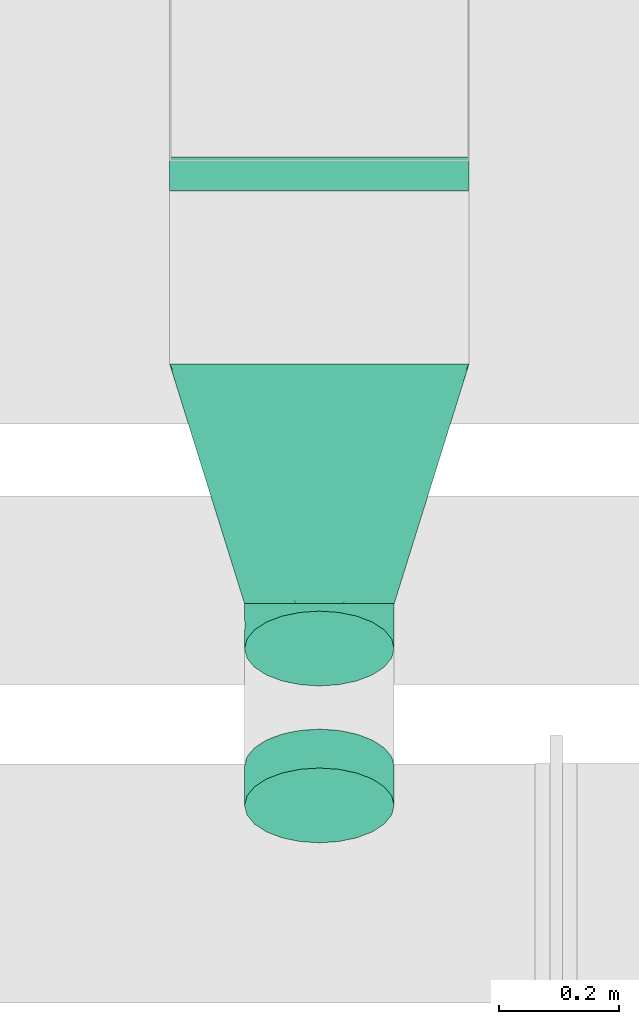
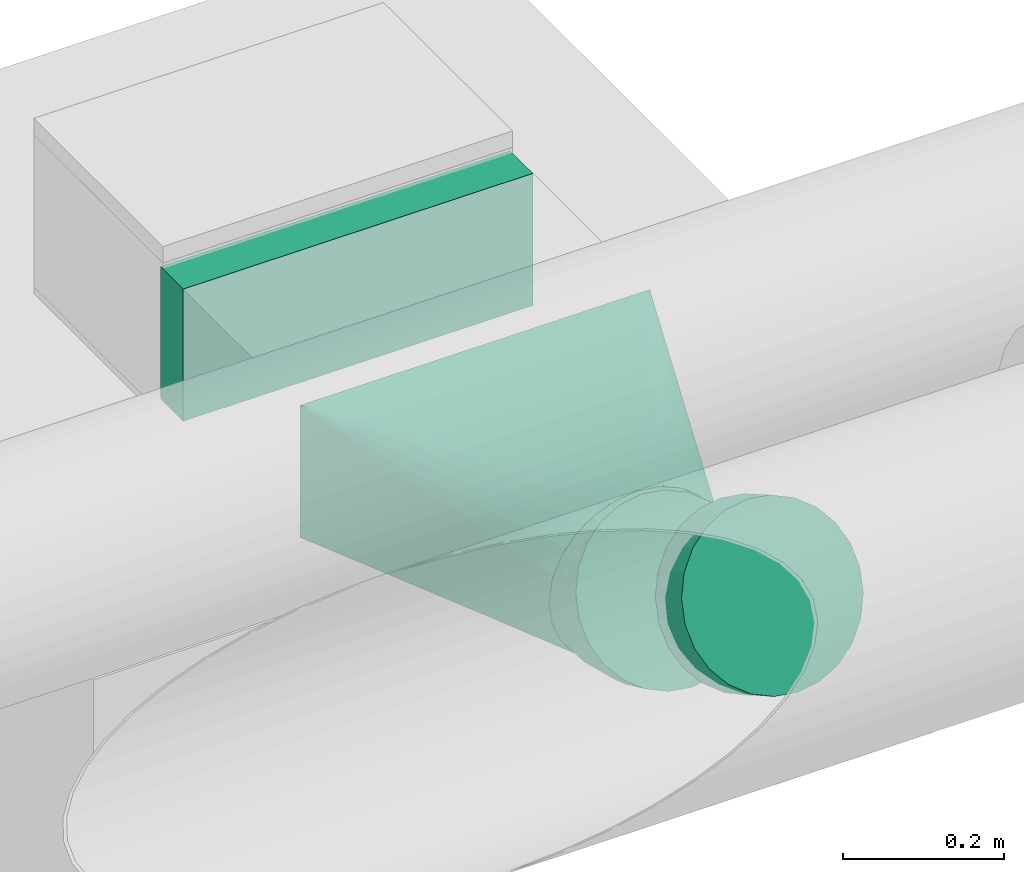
# One storey, part 32 of 36: 4 flow fittings.
"""IFC2X3 building model written with IfcOpenShell, lengths in millimetres."""

from ifc_helpers import new_model, entity, si_unit, converted_unit, derived_unit, direction, frame, origin_with_axes, place, context, subcontext, project, spatial, open_shell, surface_model, source, transform, mapped, type_object, element, save


model = new_model("IFC2X3")

# Units and contexts
model_context = context("Model", 3, precision=0.01, world=frame((0.0, 4.29681676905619e-09, 0.0)), true_north=direction((4.01073788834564e-13, 1.0)))
plan_context = context("Plan", 3, precision=0.01, world=frame((0.0, 4.29681676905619e-09, 0.0)), true_north=direction((4.01073788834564e-13, 1.0)))
body_context = subcontext(model_context, "Body", "Model", "MODEL_VIEW")
ifc_project = project(units=[converted_unit("PLANEANGLEUNIT", "DEGREE", entity("IfcPositiveLengthMeasure", 0.0174532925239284), si_unit("PLANEANGLEUNIT", "RADIAN"), dimensions=[0, 0, 0, 0, 0, 0, 0]), si_unit("AREAUNIT", "SQUARE_METRE"), si_unit("LENGTHUNIT", "METRE", prefix="MILLI"), si_unit("MASSUNIT", "GRAM", prefix="KILO"), si_unit("POWERUNIT", "WATT"), si_unit("PRESSUREUNIT", "PASCAL"), si_unit("FORCEUNIT", "NEWTON", prefix="KILO"), si_unit("ELECTRICCURRENTUNIT", "AMPERE"), si_unit("THERMODYNAMICTEMPERATUREUNIT", "DEGREE_CELSIUS"), si_unit("TIMEUNIT", "SECOND"), si_unit("VOLUMEUNIT", "CUBIC_METRE"), derived_unit("LINEARVELOCITYUNIT", [(si_unit("LENGTHUNIT", "METRE"), 1), (si_unit("TIMEUNIT", "SECOND"), -1)]), derived_unit("VOLUMETRICFLOWRATEUNIT", [(si_unit("VOLUMEUNIT", "CUBIC_METRE"), 1), (si_unit("TIMEUNIT", "SECOND"), -1)]), derived_unit("THERMALTRANSMITTANCEUNIT", [(si_unit("POWERUNIT", "WATT"), 1), (si_unit("THERMODYNAMICTEMPERATUREUNIT", "KELVIN"), -1), (si_unit("AREAUNIT", "SQUARE_METRE"), -1)])], contexts=[model_context, plan_context])

# Site, building, storey
site_placement = place(None, frame((0.0, -4.29681676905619e-09, 0.0), z_axis=(0.0, 0.0, 1.0), x_axis=(1.0, 0.0, 0.0)))
site = spatial("IfcSite", under=ifc_project, at=site_placement, CompositionType="ELEMENT")
building_placement = place(site_placement, frame((0.0, 4.29681676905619e-09, 0.0), z_axis=(0.0, 0.0, 1.0), x_axis=(1.0, 0.0, 0.0)))
building = spatial("IfcBuilding", under=site, at=building_placement, Name="mc-building", CompositionType="ELEMENT")
storey_placement = place(building_placement, frame((0.0, 0.0, 204000.0), z_axis=(0.0, 0.0, 1.0), x_axis=(1.0, 0.0, 0.0)))
storey = spatial("IfcBuildingStorey", under=building, at=storey_placement, Name="Nivå D", CompositionType="ELEMENT", Elevation=204000.0)

# Flow fittings
duct_fitting_type_1 = type_object("IfcDuctFittingType", Name="magicirc_tapoutlet_001", PredefinedType="CONNECTOR")
shared_shape_1 = source(origin_with_axes(), body_context, "Body", "SurfaceModel", [
    surface_model("IfcShellBasedSurfaceModel", [(-49.97105, -32.35238, -120.74073), (-49.97105, -125.0, 0.0), (-49.97105, 0.0, -125.0), (-49.97105, -62.5, -108.25318), (-49.97105, -88.38835, -88.38835), (-49.97105, -108.25318, -62.5), (-49.97105, 88.38835, -88.38835), (-49.97105, 120.74073, 32.35238), (-49.97105, 62.5, -108.25318), (-49.97105, 32.35238, -120.74073), (-49.97105, 108.25318, -62.5), (-49.97105, 120.74073, -32.35238), (-49.97105, 125.0, 0.0), (-49.97105, -120.74073, -32.35238), (-49.97105, -120.74073, 32.35238), (-49.97105, -108.25318, 62.5), (-49.97105, -62.5, 108.25318), (-49.97105, -32.35238, 120.74073), (-49.97105, -88.38835, 88.38835), (-49.97105, 62.5, 108.25318), (-49.97105, 108.25318, 62.5), (-49.97105, 88.38835, 88.38835), (-49.97105, 32.35238, 120.74073), (-49.97105, 0.0, 125.0), (0.0, -32.35238, 120.74073), (0.0, 0.0, 125.0), (0.0, -62.5, 108.25318), (0.0, -88.38835, 88.38835), (0.0, -120.74073, 32.35238), (0.0, -108.25318, 62.5), (0.0, -125.0, 0.0), (0.0, -120.74073, -32.35238), (0.0, -108.25318, -62.5), (0.0, -88.38835, -88.38835), (0.0, -32.35238, -120.74073), (0.0, -62.5, -108.25318), (0.0, 0.0, -125.0), (0.0, 32.35238, -120.74073), (0.0, 62.5, -108.25318), (0.0, 88.38835, -88.38835), (0.0, 120.74073, -32.35238), (0.0, 108.25318, -62.5), (0.0, 125.0, 0.0), (0.0, 120.74073, 32.35238), (0.0, 108.25318, 62.5), (0.0, 88.38835, 88.38835), (0.0, 32.35238, 120.74073), (0.0, 62.5, 108.25318), (25.0, -88.38835, -88.38835), (25.0, -120.74073, 32.35238), (25.0, -108.25318, -62.5), (25.0, 32.35238, -120.74073), (25.0, 0.0, -125.0), (25.0, 62.5, -108.25318), (25.0, -32.35238, -120.74073), (25.0, -62.5, -108.25318), (25.0, -125.0, 0.0), (25.0, -120.74073, -32.35238), (25.0, 88.38835, -88.38835), (25.0, 108.25318, -62.5), (25.0, 125.0, 0.0), (25.0, 120.74073, 32.35238), (25.0, 120.74073, -32.35238), (25.0, -108.25318, 62.5), (25.0, -62.5, 108.25318), (25.0, -32.35238, 120.74073), (25.0, -88.38835, 88.38835), (25.0, 0.0, 125.0), (25.0, 108.25318, 62.5), (25.0, 88.38835, 88.38835), (25.0, 32.35238, 120.74073), (25.0, 62.5, 108.25318)], [open_shell([[[0, 1, 2]], [[3, 1, 0]], [[4, 5, 1]], [[4, 1, 3]], [[6, 2, 7]], [[2, 8, 9]], [[2, 6, 8]], [[10, 7, 11]], [[10, 6, 7]], [[7, 12, 11]], [[1, 5, 13]], [[14, 15, 2]], [[2, 15, 16]], [[17, 2, 16]], [[16, 15, 18]], [[2, 17, 19]], [[2, 20, 7]], [[21, 20, 2]], [[21, 2, 19]], [[17, 22, 19]], [[17, 23, 22]], [[1, 14, 2]], [[24, 25, 23]], [[26, 24, 17]], [[17, 24, 23]], [[18, 27, 16]], [[26, 17, 16]], [[26, 16, 27]], [[28, 29, 15]], [[30, 28, 14]], [[15, 29, 18]], [[28, 15, 14]], [[30, 14, 1]], [[27, 18, 29]], [[31, 30, 1]], [[32, 31, 13]], [[13, 31, 1]], [[4, 33, 5]], [[32, 13, 5]], [[32, 5, 33]], [[34, 35, 3]], [[36, 34, 2]], [[3, 33, 4]], [[34, 3, 0]], [[0, 2, 34]], [[35, 33, 3]], [[37, 36, 2]], [[38, 37, 9]], [[9, 37, 2]], [[6, 39, 8]], [[38, 9, 8]], [[38, 8, 39]], [[40, 41, 10]], [[42, 40, 11]], [[10, 41, 6]], [[40, 10, 11]], [[42, 11, 12]], [[39, 6, 41]], [[43, 42, 12]], [[44, 43, 7]], [[7, 43, 12]], [[21, 45, 20]], [[44, 7, 20]], [[44, 20, 45]], [[46, 47, 19]], [[25, 46, 22]], [[19, 47, 21]], [[46, 19, 22]], [[25, 22, 23]], [[45, 21, 47]], [[8, 9, 2]], [[6, 7, 10]], [[15, 2, 14]], [[15, 18, 2]], [[2, 18, 16]], [[2, 19, 21]], [[23, 22, 17]], [[2, 1, 14]], [[48, 49, 50]], [[51, 52, 36]], [[53, 51, 37]], [[53, 37, 38]], [[36, 52, 54]], [[34, 54, 55]], [[35, 34, 55]], [[56, 57, 49]], [[58, 59, 60]], [[58, 60, 53]], [[52, 51, 54]], [[54, 49, 55]], [[55, 49, 48]], [[54, 60, 61]], [[54, 51, 53]], [[62, 60, 59]], [[53, 60, 54]], [[57, 50, 49]], [[63, 49, 54]], [[64, 63, 54]], [[64, 54, 65]], [[66, 63, 64]], [[67, 65, 54]], [[61, 68, 54]], [[68, 69, 54]], [[70, 67, 71]], [[69, 71, 67]], [[54, 69, 67]], [[65, 67, 25]], [[64, 65, 24]], [[24, 65, 25]], [[27, 66, 26]], [[64, 24, 26]], [[64, 26, 66]], [[49, 63, 29]], [[56, 49, 28]], [[29, 63, 27]], [[49, 29, 28]], [[56, 28, 30]], [[66, 27, 63]], [[57, 56, 30]], [[50, 57, 31]], [[31, 57, 30]], [[33, 48, 32]], [[50, 31, 32]], [[50, 32, 48]], [[35, 55, 33]], [[54, 34, 36]], [[48, 33, 55]], [[37, 51, 36]], [[39, 58, 38]], [[53, 38, 58]], [[62, 59, 41]], [[60, 62, 40]], [[41, 59, 39]], [[62, 41, 40]], [[60, 40, 42]], [[58, 39, 59]], [[61, 60, 42]], [[68, 61, 43]], [[43, 61, 42]], [[45, 69, 44]], [[68, 43, 44]], [[68, 44, 69]], [[70, 71, 47]], [[67, 70, 46]], [[47, 71, 45]], [[70, 47, 46]], [[67, 46, 25]], [[69, 45, 71]], [[66, 63, 54]], [[54, 65, 64]], [[64, 66, 54]], [[54, 69, 71]], [[67, 54, 71]]])]),
])
flow_fitting_1_placement = place(storey_placement, frame((523000.04455, 413905.97383, 2777.5), z_axis=(0.0, -0.500000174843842, -0.866025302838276), x_axis=(0.0, 0.866025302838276, -0.500000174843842)))
element("IfcFlowFitting", 1, at=flow_fitting_1_placement, inside=storey, type_object=duct_fitting_type_1, Name="magicirc_tapoutlet_001", context=body_context, shape_type="MappedRepresentation", body=[
    mapped(shared_shape_1, transform((0.0, 0.0, 0.0), scale=1.0)),
])
duct_fitting_type_2 = type_object("IfcDuctFittingType", Name="magicirc_elbow_short_001", PredefinedType="BEND")
shared_shape_2 = source(origin_with_axes(), body_context, "Body", "SurfaceModel", [
    surface_model("IfcShellBasedSurfaceModel", [(-40.19238, 0.0, -125.0), (-40.19238, -32.35238, -120.74073), (-40.19238, 32.35238, -120.74073), (-40.19238, 62.5, -108.25318), (-40.19238, 88.38835, -88.38835), (-40.19238, 108.25318, -62.5), (-40.19238, 120.74073, -32.35238), (-40.19238, -62.5, -108.25318), (-40.19238, -88.38835, -88.38835), (-40.19238, -125.0, 0.0), (-40.19238, -108.25318, -62.5), (-40.19238, -120.74073, -32.35238), (-40.19238, 125.0, 0.0), (-40.19238, -120.74073, 32.35238), (-40.19238, 120.74073, 32.35238), (-40.19238, 108.25318, 62.5), (-40.19238, 32.35238, 120.74073), (-40.19238, 62.5, 108.25318), (-40.19238, 88.38835, 88.38835), (-40.19238, -88.38835, 88.38835), (-40.19238, -108.25318, 62.5), (-40.19238, -32.35238, 120.74073), (-40.19238, 0.0, 125.0), (-40.19238, -62.5, 108.25318), (-9.38655, 96.64275, -88.38835), (34.80762, 20.09619, -125.0), (18.63143, 48.11417, -120.74073), (3.55762, 74.22278, -108.25318), (-19.31897, 113.84619, -62.5), (-25.56274, 124.66072, -32.35238), (79.00179, -56.45037, 88.38835), (79.00179, -56.45037, -88.38835), (50.98381, -7.92179, -120.74073), (66.05762, -34.0304, -108.25318), (88.93421, -73.65381, -62.5), (97.30762, -88.15698, 0.0), (95.17798, -84.46835, -32.35238), (-25.56274, 124.66072, 32.35238), (-27.69238, 128.34936, 0.0), (18.63143, 48.11417, 120.74073), (-19.31897, 113.84619, 62.5), (-9.38655, 96.64275, 88.38835), (3.55762, 74.22278, 108.25318), (88.93421, -73.65381, 62.5), (95.17798, -84.46835, 32.35238), (66.05762, -34.0304, 108.25318), (34.80762, 20.09619, 125.0), (50.98381, -7.92179, 120.74073), (-9.74816, -99.74686, 72.82399), (0.34816, -114.42241, 42.61333), (25.63493, -95.67087, 68.83858), (-9.10079, -122.27984, 0.0), (7.56087, -120.82213, 0.0), (-20.25119, 75.57848, 101.50288), (-11.94355, 47.35013, 117.17416), (40.61111, -65.366, 96.02564), (58.31559, -81.50923, 72.82399), (-17.05346, -49.39423, 114.24198), (-2.48725, -76.91417, 96.02564), (12.72187, -47.4787, 112.51997), (-3.82194, -18.77463, 122.93096), (69.02144, -101.34705, 0.0), (-4.15688, 15.51367, 124.5352), (-26.54316, 99.06043, 78.51635), (-33.7219, 125.85186, 0.0), (30.38171, -106.29626, 46.98033), (30.41644, -113.51569, 23.288), (23.43026, -7.26749, 123.44595), (56.90969, -99.2668, 42.61333), (39.46584, -34.24994, 114.24198), (53.86316, -108.41547, 0.0), (30.71202, -114.6188, 0.0), (56.90969, -99.2668, -42.61333), (23.43027, -7.26749, -123.44595), (-4.15689, 15.51367, -124.5352), (-17.05346, -49.39423, -114.24198), (-3.82193, -18.77464, -122.93096), (12.72188, -47.4787, -112.51997), (-26.54316, 99.06043, -78.51635), (0.34816, -114.42241, -42.61333), (-9.74816, -99.74686, -72.82399), (25.63493, -95.67087, -68.83858), (-20.25119, 75.57848, -101.50288), (-13.33165, 46.9782, -117.17416), (-2.48725, -76.91417, -96.02564), (40.61111, -65.366, -96.02564), (41.14459, -110.53887, -22.60026), (28.74753, -107.28723, -45.65713), (58.31559, -81.50923, -72.824), (39.46585, -34.24993, -114.24198)], [open_shell([[[0, 1, 2]], [[3, 2, 4]], [[1, 5, 2]], [[4, 2, 5]], [[5, 1, 6]], [[7, 8, 1]], [[9, 1, 8]], [[10, 11, 8]], [[9, 8, 11]], [[9, 6, 1]], [[9, 12, 6]], [[12, 13, 14]], [[15, 14, 16]], [[16, 17, 18]], [[15, 16, 18]], [[16, 14, 19]], [[20, 19, 13]], [[19, 14, 13]], [[21, 22, 23]], [[19, 23, 22]], [[19, 22, 16]], [[9, 13, 12]], [[24, 25, 26]], [[24, 26, 27]], [[24, 28, 29]], [[24, 29, 25]], [[30, 31, 25]], [[32, 31, 33]], [[32, 25, 31]], [[34, 35, 36]], [[35, 34, 31]], [[31, 30, 35]], [[25, 29, 30]], [[37, 30, 38]], [[39, 37, 40]], [[41, 42, 39]], [[41, 39, 40]], [[30, 37, 39]], [[35, 43, 44]], [[30, 43, 35]], [[45, 46, 47]], [[46, 45, 30]], [[39, 46, 30]], [[30, 29, 38]], [[48, 49, 50]], [[51, 52, 49]], [[53, 54, 42]], [[55, 56, 30]], [[57, 58, 59]], [[20, 48, 19]], [[49, 13, 51]], [[21, 23, 57]], [[57, 60, 21]], [[23, 19, 58]], [[61, 35, 44]], [[48, 58, 19]], [[22, 21, 60]], [[22, 62, 16]], [[62, 54, 16]], [[13, 49, 20]], [[59, 58, 55]], [[53, 18, 17]], [[42, 41, 53]], [[63, 15, 18]], [[37, 14, 15]], [[49, 48, 20]], [[64, 12, 14]], [[65, 49, 66]], [[49, 52, 66]], [[53, 63, 18]], [[62, 60, 67]], [[30, 45, 55]], [[30, 56, 43]], [[46, 67, 47]], [[58, 48, 50]], [[43, 56, 68]], [[15, 63, 40]], [[45, 69, 55]], [[50, 55, 58]], [[68, 61, 44]], [[54, 53, 17]], [[46, 39, 62]], [[68, 56, 50]], [[37, 64, 14]], [[13, 9, 51]], [[38, 64, 37]], [[61, 68, 70]], [[15, 40, 37]], [[45, 47, 69]], [[41, 63, 53]], [[50, 56, 55]], [[41, 40, 63]], [[66, 52, 71]], [[39, 54, 62]], [[54, 39, 42]], [[16, 54, 17]], [[60, 57, 59]], [[43, 68, 44]], [[59, 69, 67]], [[58, 57, 23]], [[60, 62, 22]], [[62, 67, 46]], [[59, 67, 60]], [[67, 69, 47]], [[55, 69, 59]], [[70, 68, 66]], [[65, 66, 68]], [[68, 50, 65]], [[71, 70, 66]], [[49, 65, 50]], [[34, 36, 72]], [[25, 32, 73]], [[2, 74, 0]], [[75, 76, 77]], [[78, 5, 28]], [[79, 80, 81]], [[82, 4, 78]], [[36, 35, 61]], [[2, 83, 74]], [[81, 84, 85]], [[33, 31, 85]], [[5, 6, 29]], [[79, 51, 11]], [[82, 78, 24]], [[24, 27, 82]], [[80, 79, 10]], [[7, 84, 8]], [[86, 79, 87]], [[11, 10, 79]], [[8, 80, 10]], [[75, 7, 1]], [[81, 80, 84]], [[26, 83, 27]], [[83, 82, 27]], [[6, 12, 64]], [[1, 76, 75]], [[64, 38, 29]], [[51, 9, 11]], [[85, 88, 81]], [[29, 28, 5]], [[4, 82, 3]], [[88, 85, 31]], [[83, 26, 74]], [[0, 74, 76]], [[72, 36, 61]], [[78, 28, 24]], [[82, 83, 3]], [[25, 74, 26]], [[89, 32, 33]], [[75, 84, 7]], [[34, 88, 31]], [[77, 89, 85]], [[3, 83, 2]], [[76, 73, 77]], [[81, 88, 72]], [[77, 85, 84]], [[61, 70, 86]], [[51, 79, 52]], [[84, 80, 8]], [[87, 72, 86]], [[72, 87, 81]], [[72, 88, 34]], [[1, 0, 76]], [[64, 29, 6]], [[84, 75, 77]], [[5, 78, 4]], [[74, 25, 73]], [[73, 32, 89]], [[74, 73, 76]], [[85, 89, 33]], [[73, 89, 77]], [[72, 61, 86]], [[79, 81, 87]], [[86, 70, 71]], [[79, 86, 52]], [[52, 86, 71]]])]),
])
flow_fitting_2_placement = place(storey_placement, frame((523000.04455, 414159.53344, 2631.10729000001), z_axis=(1.0, 0.0, 0.0), x_axis=(0.0, 0.866025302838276, -0.500000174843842)))
element("IfcFlowFitting", 2, at=flow_fitting_2_placement, inside=storey, type_object=duct_fitting_type_2, Name="magicirc_elbow_short_001", context=body_context, shape_type="MappedRepresentation", body=[
    mapped(shared_shape_2, transform((0.0, 0.0, 0.0), scale=1.0)),
])
duct_fitting_type_3 = type_object("IfcDuctFittingType", Name="magicirc_multi_shape_trans_001", PredefinedType="TRANSITION")
shared_shape_3 = source(origin_with_axes(), body_context, "Body", "SurfaceModel", [
    surface_model("IfcShellBasedSurfaceModel", [(400.0, -38.62713, 118.88206), (400.0, -38.62713, -118.88206), (400.0, 0.0, 125.0), (400.0, -73.47315, 101.12712), (400.0, -73.47315, -101.12712), (400.0, -101.12712, 73.47315), (400.0, -101.12712, -73.47315), (400.0, -118.88206, 38.62713), (400.0, 38.62713, 118.88206), (400.0, 0.0, -125.0), (400.0, 73.47315, 101.12712), (400.0, 101.12712, -73.47315), (400.0, 101.12712, 73.47315), (400.0, 118.88206, 38.62713), (400.0, 73.47315, -101.12712), (400.0, -125.0, 0.0), (400.0, -118.88206, -38.62713), (400.0, 38.62713, -118.88206), (400.0, 125.0, 0.0), (400.0, 118.88206, -38.62713), (0.0, 250.0, -100.0), (0.0, -250.0, -100.0), (0.0, -250.0, 100.0), (0.0, 250.0, 100.0), (152.27907, -176.03702, 104.52856), (101.9154, -208.82321, 97.04149), (152.27906, -197.42391, 83.14168), (267.38286, -162.20532, 59.42586), (270.65445, -151.89262, 78.22057), (295.39027, -157.69054, 26.15243), (95.39027, -190.38108, 105.96189), (143.08543, -170.32848, 107.86535), (190.78054, -130.76217, 111.92378), (255.89043, -132.84037, 103.59283), (312.3123, -122.05352, 92.65312), (295.39027, -65.38108, 118.46189), (267.38288, -109.15729, 112.47389), (206.05804, -166.74654, 94.01832), (143.0854, -204.20834, 73.98552), (190.78052, -190.38108, 52.30487), (95.39026, -220.19054, 76.15243), (152.27907, -197.42391, -83.14168), (101.9154, -208.82321, -97.04149), (152.27906, -176.03702, -104.52856), (267.38286, -109.15729, -112.47389), (270.65445, -126.72516, -103.38803), (295.39027, -65.38108, -118.46189), (95.39027, -220.19054, -76.15243), (143.08543, -204.20832, -73.98551), (190.78054, -190.38108, -52.30487), (255.89043, -157.63391, -78.79928), (312.3123, -125.53601, -89.17063), (295.39027, -157.69054, -26.15243), (267.38288, -162.20531, -59.42587), (206.05804, -166.74654, -94.01832), (143.0854, -170.3285, -107.86535), (190.78052, -130.76217, -111.92378), (95.39026, -190.38108, -105.96189), (152.27907, 176.03702, -104.52856), (101.9154, 208.82321, -97.04149), (152.27906, 197.42391, -83.14168), (267.38286, 162.20532, -59.42586), (270.65445, 151.89262, -78.22057), (295.39027, 157.69054, -26.15243), (95.39027, 190.38108, -105.96189), (143.08543, 170.32848, -107.86535), (190.78054, 130.76217, -111.92378), (255.89043, 132.84037, -103.59283), (312.3123, 122.05352, -92.65312), (295.39027, 65.38108, -118.46189), (267.38288, 109.15729, -112.47389), (206.05804, 166.74654, -94.01832), (143.0854, 204.20834, -73.98552), (190.78052, 190.38108, -52.30487), (95.39026, 220.19054, -76.15243), (152.27907, 197.42391, 83.14168), (101.9154, 208.82321, 97.04149), (152.27906, 176.03702, 104.52856), (267.38286, 109.15729, 112.47389), (270.65445, 126.72516, 103.38803), (295.39027, 65.38108, 118.46189), (95.39027, 220.19054, 76.15243), (143.08543, 204.20832, 73.98551), (190.78054, 190.38108, 52.30487), (255.89043, 157.63391, 78.79928), (312.3123, 125.53601, 89.17063), (295.39027, 157.69054, 26.15243), (267.38288, 162.20531, 59.42587), (206.05804, 166.74654, 94.01832), (143.0854, 170.3285, 107.86535), (190.78052, 130.76217, 111.92378), (95.39026, 190.38108, 105.96189)], [open_shell([[[0, 1, 2]], [[3, 4, 0]], [[5, 6, 3]], [[6, 5, 7]], [[8, 2, 9]], [[10, 11, 12]], [[13, 12, 11]], [[14, 10, 8]], [[7, 15, 16]], [[4, 3, 6]], [[1, 9, 2]], [[0, 4, 1]], [[17, 8, 9]], [[18, 13, 19]], [[13, 11, 19]], [[11, 10, 14]], [[17, 14, 8]], [[16, 6, 7]], [[20, 21, 22]], [[22, 23, 20]], [[24, 22, 25]], [[26, 27, 28]], [[27, 29, 7]], [[30, 31, 32]], [[3, 33, 34]], [[0, 35, 36]], [[32, 31, 36]], [[37, 24, 25]], [[38, 26, 22]], [[39, 38, 40]], [[22, 31, 30]], [[22, 24, 31]], [[34, 28, 5]], [[0, 36, 33]], [[33, 36, 24]], [[26, 25, 22]], [[37, 25, 26]], [[26, 38, 27]], [[36, 31, 24]], [[27, 38, 39]], [[40, 38, 22]], [[24, 37, 33]], [[27, 39, 29]], [[15, 7, 29]], [[28, 7, 5]], [[34, 33, 37]], [[0, 33, 3]], [[28, 34, 37]], [[5, 3, 34]], [[26, 28, 37]], [[28, 27, 7]], [[35, 0, 2]], [[35, 32, 36]], [[22, 21, 15]], [[41, 21, 42]], [[43, 44, 45]], [[44, 46, 1]], [[47, 48, 49]], [[6, 50, 51]], [[16, 52, 53]], [[49, 48, 53]], [[54, 41, 42]], [[55, 43, 21]], [[56, 55, 57]], [[21, 48, 47]], [[21, 41, 48]], [[51, 45, 4]], [[16, 53, 50]], [[50, 53, 41]], [[43, 42, 21]], [[54, 42, 43]], [[43, 55, 44]], [[53, 48, 41]], [[44, 55, 56]], [[57, 55, 21]], [[41, 54, 50]], [[44, 56, 46]], [[9, 1, 46]], [[45, 1, 4]], [[51, 50, 54]], [[16, 50, 6]], [[45, 51, 54]], [[4, 6, 51]], [[43, 45, 54]], [[45, 44, 1]], [[52, 16, 15]], [[52, 49, 53]], [[21, 20, 9]], [[58, 20, 59]], [[60, 61, 62]], [[61, 63, 19]], [[64, 65, 66]], [[14, 67, 68]], [[17, 69, 70]], [[66, 65, 70]], [[71, 58, 59]], [[72, 60, 20]], [[73, 72, 74]], [[20, 65, 64]], [[20, 58, 65]], [[68, 62, 11]], [[17, 70, 67]], [[67, 70, 58]], [[60, 59, 20]], [[71, 59, 60]], [[60, 72, 61]], [[70, 65, 58]], [[61, 72, 73]], [[74, 72, 20]], [[58, 71, 67]], [[61, 73, 63]], [[18, 19, 63]], [[62, 19, 11]], [[68, 67, 71]], [[17, 67, 14]], [[62, 68, 71]], [[11, 14, 68]], [[60, 62, 71]], [[62, 61, 19]], [[69, 17, 9]], [[69, 66, 70]], [[20, 23, 18]], [[75, 23, 76]], [[77, 78, 79]], [[78, 80, 8]], [[81, 82, 83]], [[12, 84, 85]], [[13, 86, 87]], [[83, 82, 87]], [[88, 75, 76]], [[89, 77, 23]], [[90, 89, 91]], [[23, 82, 81]], [[23, 75, 82]], [[85, 79, 10]], [[13, 87, 84]], [[84, 87, 75]], [[77, 76, 23]], [[88, 76, 77]], [[77, 89, 78]], [[87, 82, 75]], [[78, 89, 90]], [[91, 89, 23]], [[75, 88, 84]], [[78, 90, 80]], [[2, 8, 80]], [[79, 8, 10]], [[85, 84, 88]], [[13, 84, 12]], [[79, 85, 88]], [[10, 12, 85]], [[77, 79, 88]], [[79, 78, 8]], [[86, 13, 18]], [[86, 83, 87]], [[23, 22, 2]]])]),
])
flow_fitting_3_placement = place(storey_placement, frame((523000.04455, 414599.72582, 2631.10729000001), z_axis=(0.0, 0.0, 1.0), x_axis=(0.0, -1.0, 0.0)))
element("IfcFlowFitting", 3, at=flow_fitting_3_placement, inside=storey, type_object=duct_fitting_type_3, Name="magicirc_multi_shape_trans_001", context=body_context, shape_type="MappedRepresentation", body=[
    mapped(shared_shape_3, transform((0.0, 0.0, 0.0), scale=1.0)),
])
duct_fitting_type_4 = type_object("IfcDuctFittingType", Name="magirect_outlet1_001 2", PredefinedType="CONNECTOR")
shared_shape_4 = source(origin_with_axes(), body_context, "Body", "SurfaceModel", [
    surface_model("IfcShellBasedSurfaceModel", [(-6.096, -100.0, 250.0), (-6.096, 100.0, -250.0), (-6.096, -100.0, -250.0), (-6.096, 100.0, 250.0), (50.0, 100.0, -250.0), (50.0, 100.0, 250.0), (50.0, -100.0, -250.0), (50.0, -100.0, 250.0)], [open_shell([[[0, 1, 2]], [[1, 0, 3]], [[1, 3, 4]], [[5, 4, 3]], [[2, 1, 6]], [[4, 6, 1]], [[0, 2, 6]], [[6, 7, 0]], [[3, 0, 7]], [[7, 5, 3]], [[4, 5, 7]], [[7, 6, 4]], [[4, 5, 6]], [[7, 6, 5]]])]),
])
flow_fitting_4_placement = place(storey_placement, frame((523000.04455, 414939.37451, 2631.10729000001), z_axis=(-1.0, 0.0, 0.0), x_axis=(0.0, -1.0, 0.0)))
element("IfcFlowFitting", 4, at=flow_fitting_4_placement, inside=storey, type_object=duct_fitting_type_4, Name="magirect_outlet1_001 2", context=body_context, shape_type="MappedRepresentation", body=[
    mapped(shared_shape_4, transform((0.0, 0.0, 0.0), scale=1.0)),
])

save(model, "model.ifc")
